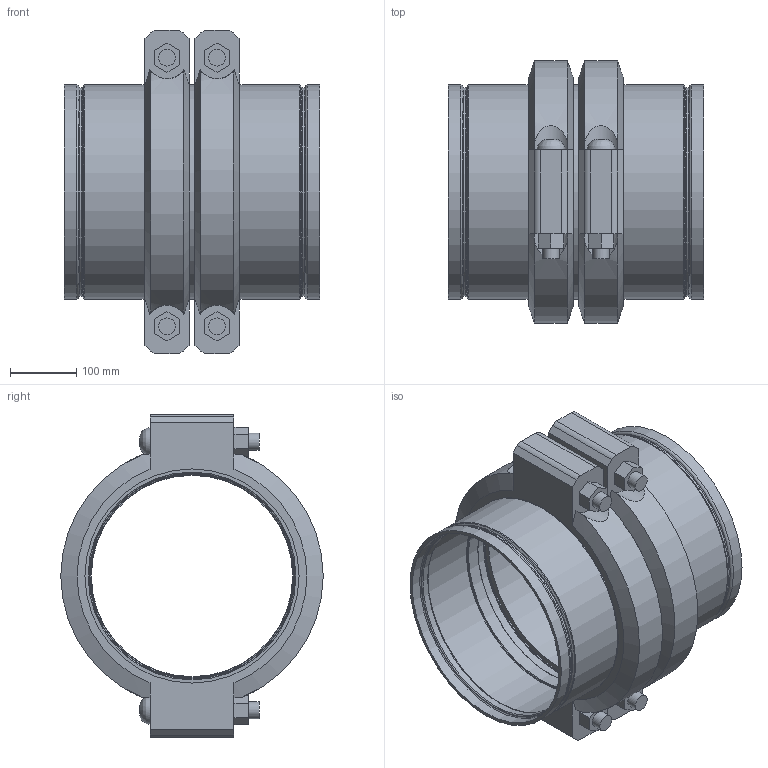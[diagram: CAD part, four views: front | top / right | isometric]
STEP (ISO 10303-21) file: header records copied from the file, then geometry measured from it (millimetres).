
FILE_DESCRIPTION(/* description */ ('VIC STRENGTHIN 100 EXPANSION JOINT 2 COUPLINGS EXPANDED STYLE E155 (ST1)','CAx-IF Rec.Pracs.---Representation and Presentation of Product Manufacturing Information (PMI)---4.0---2014-10-13'),/* implementation_level */ '2;1');
FILE_NAME(/* name */ 'C:\Users\Vjadhav\AppData\Roaming\Autodesk\ApplicationPlugins\Victaulic.Temp\A901\Victaulic_SS-StrengThin 100_Expansion Joint_Expanded_2 Couplings_Style E155 (ST1)_12 (300).stp',/* time_stamp */ '2021-07-23T19:27:24+06:00',/* author */ ('kkamble'),/* organization */ ('Victaulic'),/* preprocessor_version */ 'ST-DEVELOPER v17.2',/* originating_system */ 'Autodesk Inventor 2019',/* authorisation */ '');
FILE_SCHEMA (('AP242_MANAGED_MODEL_BASED_3D_ENGINEERING_MIM_LF { 1 0 10303 442 1 1 4 }'));
Length unit declared in the file: inch
Products named in the file (4): E155-12.0; E494G-12.0; Nipple-12.0; 077-12.0
Assembly tree (5 placements, depth 2):
  E155-12.0
    E494G-12.0  x2
    Nipple-12.0
    077-12.0  x2
Bounding box: 386.59 x 397 x 488.95 mm (x, y, z)
Volume: 8957588.1 mm3; surface area: 1468445 mm2
Topology: 5 solids, 9 shells, 204 faces, 550 edges, 394 vertices
Faces by surface type: plane 92, cylinder 64, torus 32, cone 12, bspline 4
Full cylindrical faces by diameter (mm): 25.4 x8, 27.432 x4, 304.8 x1, 306.426 x2, 308.737 x2, 314.3 x6, 314.96 x2, 315.976 x2, 318.287 x4, 323.85 x13
Entity records: 4009 total; most frequent: CARTESIAN_POINT 824, DIRECTION 675, ORIENTED_EDGE 580, EDGE_CURVE 290, AXIS2_PLACEMENT_3D 290, VERTEX_POINT 209, CIRCLE 175, EDGE_LOOP 135
